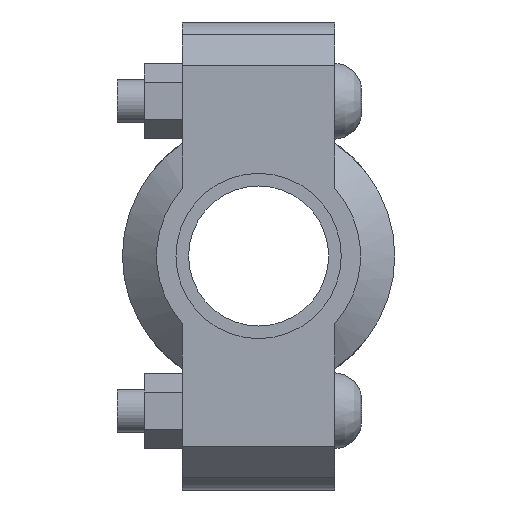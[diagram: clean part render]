
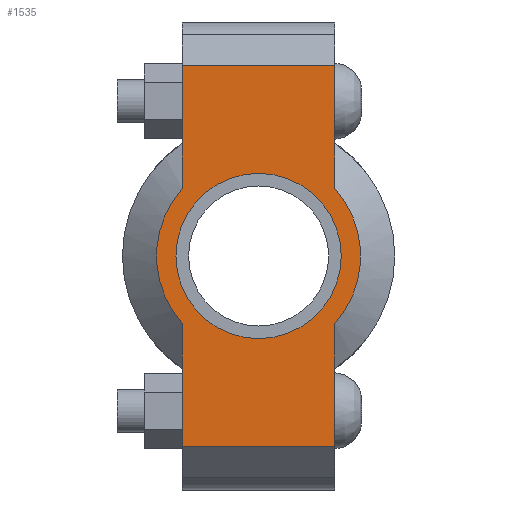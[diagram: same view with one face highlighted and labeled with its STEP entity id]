
A CAD part, left-side view. The second image highlights one B-rep face of the part: STEP entity #1535.
In plain terms, the highlighted planar face has unit normal (-1, 0, 0) as drawn and (0, 0, 1) by its records, which use the part's own axes.
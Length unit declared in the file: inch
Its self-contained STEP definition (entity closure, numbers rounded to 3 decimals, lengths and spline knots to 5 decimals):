
#146=LINE('',#2637,#241);
#161=LINE('',#2696,#256);
#169=LINE('',#2726,#264);
#171=LINE('',#2729,#266);
#172=LINE('',#2734,#267);
#173=LINE('',#2735,#268);
#241=VECTOR('',#2131,0.3937);
#256=VECTOR('',#2166,0.3937);
#264=VECTOR('',#2186,0.3937);
#266=VECTOR('',#2190,0.3937);
#267=VECTOR('',#2195,0.3937);
#268=VECTOR('',#2196,0.3937);
#328=FACE_BOUND('',#487,.T.);
#388=FACE_OUTER_BOUND('',#486,.T.);
#486=EDGE_LOOP('',(#1230,#1231,#1232,#1233,#1234,#1235,#1236,#1237));
#487=EDGE_LOOP('',(#1238));
#592=CIRCLE('',#1798,1.172);
#593=CIRCLE('',#1799,1.172);
#594=CIRCLE('',#1800,0.95);
#701=VERTEX_POINT('',#2634);
#702=VERTEX_POINT('',#2636);
#723=VERTEX_POINT('',#2691);
#724=VERTEX_POINT('',#2695);
#733=VERTEX_POINT('',#2721);
#734=VERTEX_POINT('',#2725);
#735=VERTEX_POINT('',#2731);
#736=VERTEX_POINT('',#2733);
#737=VERTEX_POINT('',#2737);
#871=EDGE_CURVE('',#702,#701,#146,.T.);
#896=EDGE_CURVE('',#724,#723,#161,.T.);
#909=EDGE_CURVE('',#734,#733,#169,.T.);
#911=EDGE_CURVE('',#734,#701,#171,.T.);
#912=EDGE_CURVE('',#733,#735,#592,.T.);
#913=EDGE_CURVE('',#735,#736,#172,.T.);
#914=EDGE_CURVE('',#724,#736,#173,.T.);
#915=EDGE_CURVE('',#723,#702,#593,.T.);
#916=EDGE_CURVE('',#737,#737,#594,.T.);
#1230=ORIENTED_EDGE('',*,*,#911,.F.);
#1231=ORIENTED_EDGE('',*,*,#909,.T.);
#1232=ORIENTED_EDGE('',*,*,#912,.T.);
#1233=ORIENTED_EDGE('',*,*,#913,.T.);
#1234=ORIENTED_EDGE('',*,*,#914,.F.);
#1235=ORIENTED_EDGE('',*,*,#896,.T.);
#1236=ORIENTED_EDGE('',*,*,#915,.T.);
#1237=ORIENTED_EDGE('',*,*,#871,.T.);
#1238=ORIENTED_EDGE('',*,*,#916,.T.);
#1387=PLANE('',#1797);
#1535=ADVANCED_FACE('',(#388,#328),#1387,.T.);
#1797=AXIS2_PLACEMENT_3D('',#2730,#2191,#2192);
#1798=AXIS2_PLACEMENT_3D('',#2732,#2193,#2194);
#1799=AXIS2_PLACEMENT_3D('',#2736,#2197,#2198);
#1800=AXIS2_PLACEMENT_3D('',#2738,#2199,#2200);
#2131=DIRECTION('',(1.,0.,0.));
#2166=DIRECTION('',(1.,0.,0.));
#2186=DIRECTION('',(-1.,0.,0.));
#2190=DIRECTION('',(0.,-1.,0.));
#2191=DIRECTION('center_axis',(0.,0.,1.));
#2192=DIRECTION('ref_axis',(-1.,0.,0.));
#2193=DIRECTION('center_axis',(0.,0.,1.));
#2194=DIRECTION('ref_axis',(1.,0.,0.));
#2195=DIRECTION('',(-1.,0.,0.));
#2196=DIRECTION('',(0.,1.,0.));
#2197=DIRECTION('center_axis',(0.,0.,1.));
#2198=DIRECTION('ref_axis',(1.,0.,0.));
#2199=DIRECTION('center_axis',(0.,0.,-1.));
#2200=DIRECTION('ref_axis',(1.,0.,0.));
#2634=CARTESIAN_POINT('',(2.19,-0.875,0.94));
#2636=CARTESIAN_POINT('',(0.77972,-0.875,0.94));
#2637=CARTESIAN_POINT('',(-2.69,-0.875,0.94));
#2691=CARTESIAN_POINT('',(-0.77972,-0.875,0.94));
#2695=CARTESIAN_POINT('',(-2.19,-0.875,0.94));
#2696=CARTESIAN_POINT('',(-2.69,-0.875,0.94));
#2721=CARTESIAN_POINT('',(0.77972,0.875,0.94));
#2725=CARTESIAN_POINT('',(2.19,0.875,0.94));
#2726=CARTESIAN_POINT('',(2.69,0.875,0.94));
#2729=CARTESIAN_POINT('',(2.19,-0.4375,0.94));
#2730=CARTESIAN_POINT('Origin',(0.,0.,
0.94));
#2731=CARTESIAN_POINT('',(-0.77972,0.875,0.94));
#2732=CARTESIAN_POINT('Origin',(0.,0.,0.94));
#2733=CARTESIAN_POINT('',(-2.19,0.875,0.94));
#2734=CARTESIAN_POINT('',(2.69,0.875,0.94));
#2735=CARTESIAN_POINT('',(-2.19,0.4375,0.94));
#2736=CARTESIAN_POINT('Origin',(0.,0.,0.94));
#2737=CARTESIAN_POINT('',(-0.95,0.,0.94));
#2738=CARTESIAN_POINT('Origin',(0.,0.,0.94));
